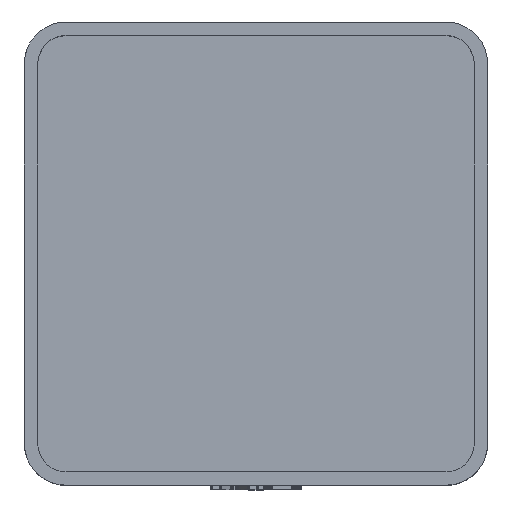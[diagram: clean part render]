
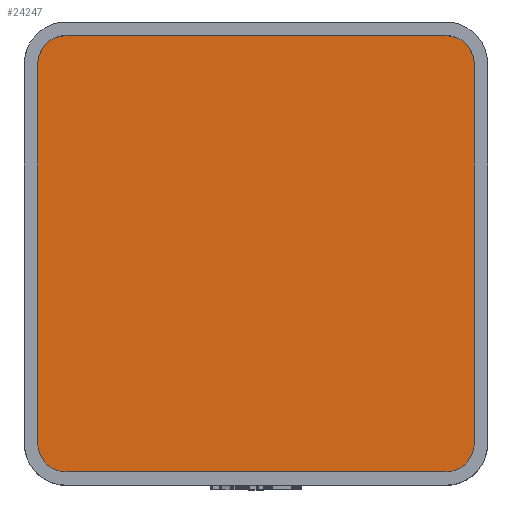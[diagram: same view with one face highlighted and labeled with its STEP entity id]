
A CAD part, top view. The second image highlights one B-rep face of the part: STEP entity #24247.
In plain terms, the highlighted planar face has unit normal (0, 0, 1).
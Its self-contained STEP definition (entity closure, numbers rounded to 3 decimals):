
#1442 = PLANE('',#1443);
#1443 = AXIS2_PLACEMENT_3D('',#1444,#1445,#1446);
#1444 = CARTESIAN_POINT('',(-19.55,-17.,4.75));
#1445 = DIRECTION('',(-1.,0.,0.));
#1446 = DIRECTION('',(0.,1.,0.));
#1474 = CYLINDRICAL_SURFACE('',#1475,2.55);
#1475 = AXIS2_PLACEMENT_3D('',#1476,#1477,#1478);
#1476 = CARTESIAN_POINT('',(-17.,17.,4.75));
#1477 = DIRECTION('',(-0.,-0.,-1.));
#1478 = DIRECTION('',(1.,0.,0.));
#1501 = PLANE('',#1502);
#1502 = AXIS2_PLACEMENT_3D('',#1503,#1504,#1505);
#1503 = CARTESIAN_POINT('',(-17.,19.55,4.75));
#1504 = DIRECTION('',(0.,1.,0.));
#1505 = DIRECTION('',(1.,0.,0.));
#1533 = CYLINDRICAL_SURFACE('',#1534,2.55);
#1534 = AXIS2_PLACEMENT_3D('',#1535,#1536,#1537);
#1535 = CARTESIAN_POINT('',(17.,17.,4.75));
#1536 = DIRECTION('',(-0.,-0.,-1.));
#1537 = DIRECTION('',(1.,0.,0.));
#1560 = PLANE('',#1561);
#1561 = AXIS2_PLACEMENT_3D('',#1562,#1563,#1564);
#1562 = CARTESIAN_POINT('',(19.55,-17.,4.75));
#1563 = DIRECTION('',(-1.,0.,0.));
#1564 = DIRECTION('',(0.,1.,0.));
#1592 = CYLINDRICAL_SURFACE('',#1593,2.55);
#1593 = AXIS2_PLACEMENT_3D('',#1594,#1595,#1596);
#1594 = CARTESIAN_POINT('',(17.,-17.,4.75));
#1595 = DIRECTION('',(-0.,-0.,-1.));
#1596 = DIRECTION('',(1.,0.,0.));
#1619 = PLANE('',#1620);
#1620 = AXIS2_PLACEMENT_3D('',#1621,#1622,#1623);
#1621 = CARTESIAN_POINT('',(-17.,-19.55,4.75));
#1622 = DIRECTION('',(0.,1.,0.));
#1623 = DIRECTION('',(1.,0.,0.));
#1649 = CYLINDRICAL_SURFACE('',#1650,2.55);
#1650 = AXIS2_PLACEMENT_3D('',#1651,#1652,#1653);
#1651 = CARTESIAN_POINT('',(-17.,-17.,4.75));
#1652 = DIRECTION('',(-0.,-0.,-1.));
#1653 = DIRECTION('',(1.,0.,0.));
#9429 = EDGE_CURVE('',#9430,#9432,#9434,.T.);
#9430 = VERTEX_POINT('',#9431);
#9431 = CARTESIAN_POINT('',(-19.55,-17.,4.75));
#9432 = VERTEX_POINT('',#9433);
#9433 = CARTESIAN_POINT('',(-19.55,17.,4.75));
#9434 = SURFACE_CURVE('',#9435,(#9439,#9446),.PCURVE_S1.);
#9435 = LINE('',#9436,#9437);
#9436 = CARTESIAN_POINT('',(-19.55,0.,4.75));
#9437 = VECTOR('',#9438,1.);
#9438 = DIRECTION('',(0.,1.,0.));
#9439 = PCURVE('',#1442,#9440);
#9440 = DEFINITIONAL_REPRESENTATION('',(#9441),#9445);
#9441 = LINE('',#9442,#9443);
#9442 = CARTESIAN_POINT('',(17.,0.));
#9443 = VECTOR('',#9444,1.);
#9444 = DIRECTION('',(1.,0.));
#9445 = ( GEOMETRIC_REPRESENTATION_CONTEXT(2) 
PARAMETRIC_REPRESENTATION_CONTEXT() REPRESENTATION_CONTEXT('2D SPACE',''
  ) );
#9446 = PCURVE('',#9447,#9452);
#9447 = PLANE('',#9448);
#9448 = AXIS2_PLACEMENT_3D('',#9449,#9450,#9451);
#9449 = CARTESIAN_POINT('',(0.,0.,4.75)
  );
#9450 = DIRECTION('',(0.,0.,1.));
#9451 = DIRECTION('',(1.,0.,-0.));
#9452 = DEFINITIONAL_REPRESENTATION('',(#9453),#9457);
#9453 = LINE('',#9454,#9455);
#9454 = CARTESIAN_POINT('',(-19.55,0.));
#9455 = VECTOR('',#9456,1.);
#9456 = DIRECTION('',(0.,1.));
#9457 = ( GEOMETRIC_REPRESENTATION_CONTEXT(2) 
PARAMETRIC_REPRESENTATION_CONTEXT() REPRESENTATION_CONTEXT('2D SPACE',''
  ) );
#9505 = EDGE_CURVE('',#9430,#9506,#9508,.T.);
#9506 = VERTEX_POINT('',#9507);
#9507 = CARTESIAN_POINT('',(-17.,-19.55,4.75));
#9508 = SURFACE_CURVE('',#9509,(#9514,#9521),.PCURVE_S1.);
#9509 = CIRCLE('',#9510,2.55);
#9510 = AXIS2_PLACEMENT_3D('',#9511,#9512,#9513);
#9511 = CARTESIAN_POINT('',(-17.,-17.,4.75));
#9512 = DIRECTION('',(0.,0.,1.));
#9513 = DIRECTION('',(1.,0.,0.));
#9514 = PCURVE('',#1649,#9515);
#9515 = DEFINITIONAL_REPRESENTATION('',(#9516),#9520);
#9516 = LINE('',#9517,#9518);
#9517 = CARTESIAN_POINT('',(-0.,0.));
#9518 = VECTOR('',#9519,1.);
#9519 = DIRECTION('',(-1.,0.));
#9520 = ( GEOMETRIC_REPRESENTATION_CONTEXT(2) 
PARAMETRIC_REPRESENTATION_CONTEXT() REPRESENTATION_CONTEXT('2D SPACE',''
  ) );
#9521 = PCURVE('',#9447,#9522);
#9522 = DEFINITIONAL_REPRESENTATION('',(#9523),#9527);
#9523 = CIRCLE('',#9524,2.55);
#9524 = AXIS2_PLACEMENT_2D('',#9525,#9526);
#9525 = CARTESIAN_POINT('',(-17.,-17.));
#9526 = DIRECTION('',(1.,0.));
#9527 = ( GEOMETRIC_REPRESENTATION_CONTEXT(2) 
PARAMETRIC_REPRESENTATION_CONTEXT() REPRESENTATION_CONTEXT('2D SPACE',''
  ) );
#9555 = EDGE_CURVE('',#9506,#9556,#9558,.T.);
#9556 = VERTEX_POINT('',#9557);
#9557 = CARTESIAN_POINT('',(17.,-19.55,4.75));
#9558 = SURFACE_CURVE('',#9559,(#9563,#9570),.PCURVE_S1.);
#9559 = LINE('',#9560,#9561);
#9560 = CARTESIAN_POINT('',(0.,-19.55,4.75));
#9561 = VECTOR('',#9562,1.);
#9562 = DIRECTION('',(1.,0.,0.));
#9563 = PCURVE('',#1619,#9564);
#9564 = DEFINITIONAL_REPRESENTATION('',(#9565),#9569);
#9565 = LINE('',#9566,#9567);
#9566 = CARTESIAN_POINT('',(17.,0.));
#9567 = VECTOR('',#9568,1.);
#9568 = DIRECTION('',(1.,0.));
#9569 = ( GEOMETRIC_REPRESENTATION_CONTEXT(2) 
PARAMETRIC_REPRESENTATION_CONTEXT() REPRESENTATION_CONTEXT('2D SPACE',''
  ) );
#9570 = PCURVE('',#9447,#9571);
#9571 = DEFINITIONAL_REPRESENTATION('',(#9572),#9576);
#9572 = LINE('',#9573,#9574);
#9573 = CARTESIAN_POINT('',(0.,-19.55));
#9574 = VECTOR('',#9575,1.);
#9575 = DIRECTION('',(1.,0.));
#9576 = ( GEOMETRIC_REPRESENTATION_CONTEXT(2) 
PARAMETRIC_REPRESENTATION_CONTEXT() REPRESENTATION_CONTEXT('2D SPACE',''
  ) );
#9604 = EDGE_CURVE('',#9556,#9605,#9607,.T.);
#9605 = VERTEX_POINT('',#9606);
#9606 = CARTESIAN_POINT('',(19.55,-17.,4.75));
#9607 = SURFACE_CURVE('',#9608,(#9613,#9620),.PCURVE_S1.);
#9608 = CIRCLE('',#9609,2.55);
#9609 = AXIS2_PLACEMENT_3D('',#9610,#9611,#9612);
#9610 = CARTESIAN_POINT('',(17.,-17.,4.75));
#9611 = DIRECTION('',(0.,0.,1.));
#9612 = DIRECTION('',(1.,0.,0.));
#9613 = PCURVE('',#1592,#9614);
#9614 = DEFINITIONAL_REPRESENTATION('',(#9615),#9619);
#9615 = LINE('',#9616,#9617);
#9616 = CARTESIAN_POINT('',(-0.,0.));
#9617 = VECTOR('',#9618,1.);
#9618 = DIRECTION('',(-1.,0.));
#9619 = ( GEOMETRIC_REPRESENTATION_CONTEXT(2) 
PARAMETRIC_REPRESENTATION_CONTEXT() REPRESENTATION_CONTEXT('2D SPACE',''
  ) );
#9620 = PCURVE('',#9447,#9621);
#9621 = DEFINITIONAL_REPRESENTATION('',(#9622),#9626);
#9622 = CIRCLE('',#9623,2.55);
#9623 = AXIS2_PLACEMENT_2D('',#9624,#9625);
#9624 = CARTESIAN_POINT('',(17.,-17.));
#9625 = DIRECTION('',(1.,0.));
#9626 = ( GEOMETRIC_REPRESENTATION_CONTEXT(2) 
PARAMETRIC_REPRESENTATION_CONTEXT() REPRESENTATION_CONTEXT('2D SPACE',''
  ) );
#9654 = EDGE_CURVE('',#9605,#9655,#9657,.T.);
#9655 = VERTEX_POINT('',#9656);
#9656 = CARTESIAN_POINT('',(19.55,17.,4.75));
#9657 = SURFACE_CURVE('',#9658,(#9662,#9669),.PCURVE_S1.);
#9658 = LINE('',#9659,#9660);
#9659 = CARTESIAN_POINT('',(19.55,0.,4.75));
#9660 = VECTOR('',#9661,1.);
#9661 = DIRECTION('',(0.,1.,0.));
#9662 = PCURVE('',#1560,#9663);
#9663 = DEFINITIONAL_REPRESENTATION('',(#9664),#9668);
#9664 = LINE('',#9665,#9666);
#9665 = CARTESIAN_POINT('',(17.,0.));
#9666 = VECTOR('',#9667,1.);
#9667 = DIRECTION('',(1.,0.));
#9668 = ( GEOMETRIC_REPRESENTATION_CONTEXT(2) 
PARAMETRIC_REPRESENTATION_CONTEXT() REPRESENTATION_CONTEXT('2D SPACE',''
  ) );
#9669 = PCURVE('',#9447,#9670);
#9670 = DEFINITIONAL_REPRESENTATION('',(#9671),#9675);
#9671 = LINE('',#9672,#9673);
#9672 = CARTESIAN_POINT('',(19.55,0.));
#9673 = VECTOR('',#9674,1.);
#9674 = DIRECTION('',(0.,1.));
#9675 = ( GEOMETRIC_REPRESENTATION_CONTEXT(2) 
PARAMETRIC_REPRESENTATION_CONTEXT() REPRESENTATION_CONTEXT('2D SPACE',''
  ) );
#9703 = EDGE_CURVE('',#9655,#9704,#9706,.T.);
#9704 = VERTEX_POINT('',#9705);
#9705 = CARTESIAN_POINT('',(17.,19.55,4.75));
#9706 = SURFACE_CURVE('',#9707,(#9712,#9719),.PCURVE_S1.);
#9707 = CIRCLE('',#9708,2.55);
#9708 = AXIS2_PLACEMENT_3D('',#9709,#9710,#9711);
#9709 = CARTESIAN_POINT('',(17.,17.,4.75));
#9710 = DIRECTION('',(0.,0.,1.));
#9711 = DIRECTION('',(1.,0.,0.));
#9712 = PCURVE('',#1533,#9713);
#9713 = DEFINITIONAL_REPRESENTATION('',(#9714),#9718);
#9714 = LINE('',#9715,#9716);
#9715 = CARTESIAN_POINT('',(-0.,0.));
#9716 = VECTOR('',#9717,1.);
#9717 = DIRECTION('',(-1.,0.));
#9718 = ( GEOMETRIC_REPRESENTATION_CONTEXT(2) 
PARAMETRIC_REPRESENTATION_CONTEXT() REPRESENTATION_CONTEXT('2D SPACE',''
  ) );
#9719 = PCURVE('',#9447,#9720);
#9720 = DEFINITIONAL_REPRESENTATION('',(#9721),#9725);
#9721 = CIRCLE('',#9722,2.55);
#9722 = AXIS2_PLACEMENT_2D('',#9723,#9724);
#9723 = CARTESIAN_POINT('',(17.,17.));
#9724 = DIRECTION('',(1.,0.));
#9725 = ( GEOMETRIC_REPRESENTATION_CONTEXT(2) 
PARAMETRIC_REPRESENTATION_CONTEXT() REPRESENTATION_CONTEXT('2D SPACE',''
  ) );
#9753 = EDGE_CURVE('',#9754,#9704,#9756,.T.);
#9754 = VERTEX_POINT('',#9755);
#9755 = CARTESIAN_POINT('',(-17.,19.55,4.75));
#9756 = SURFACE_CURVE('',#9757,(#9761,#9768),.PCURVE_S1.);
#9757 = LINE('',#9758,#9759);
#9758 = CARTESIAN_POINT('',(0.,19.55,4.75));
#9759 = VECTOR('',#9760,1.);
#9760 = DIRECTION('',(1.,0.,0.));
#9761 = PCURVE('',#1501,#9762);
#9762 = DEFINITIONAL_REPRESENTATION('',(#9763),#9767);
#9763 = LINE('',#9764,#9765);
#9764 = CARTESIAN_POINT('',(17.,0.));
#9765 = VECTOR('',#9766,1.);
#9766 = DIRECTION('',(1.,0.));
#9767 = ( GEOMETRIC_REPRESENTATION_CONTEXT(2) 
PARAMETRIC_REPRESENTATION_CONTEXT() REPRESENTATION_CONTEXT('2D SPACE',''
  ) );
#9768 = PCURVE('',#9447,#9769);
#9769 = DEFINITIONAL_REPRESENTATION('',(#9770),#9774);
#9770 = LINE('',#9771,#9772);
#9771 = CARTESIAN_POINT('',(0.,19.55));
#9772 = VECTOR('',#9773,1.);
#9773 = DIRECTION('',(1.,0.));
#9774 = ( GEOMETRIC_REPRESENTATION_CONTEXT(2) 
PARAMETRIC_REPRESENTATION_CONTEXT() REPRESENTATION_CONTEXT('2D SPACE',''
  ) );
#9802 = EDGE_CURVE('',#9754,#9432,#9803,.T.);
#9803 = SURFACE_CURVE('',#9804,(#9809,#9816),.PCURVE_S1.);
#9804 = CIRCLE('',#9805,2.55);
#9805 = AXIS2_PLACEMENT_3D('',#9806,#9807,#9808);
#9806 = CARTESIAN_POINT('',(-17.,17.,4.75));
#9807 = DIRECTION('',(0.,0.,1.));
#9808 = DIRECTION('',(1.,0.,0.));
#9809 = PCURVE('',#1474,#9810);
#9810 = DEFINITIONAL_REPRESENTATION('',(#9811),#9815);
#9811 = LINE('',#9812,#9813);
#9812 = CARTESIAN_POINT('',(-0.,0.));
#9813 = VECTOR('',#9814,1.);
#9814 = DIRECTION('',(-1.,0.));
#9815 = ( GEOMETRIC_REPRESENTATION_CONTEXT(2) 
PARAMETRIC_REPRESENTATION_CONTEXT() REPRESENTATION_CONTEXT('2D SPACE',''
  ) );
#9816 = PCURVE('',#9447,#9817);
#9817 = DEFINITIONAL_REPRESENTATION('',(#9818),#9822);
#9818 = CIRCLE('',#9819,2.55);
#9819 = AXIS2_PLACEMENT_2D('',#9820,#9821);
#9820 = CARTESIAN_POINT('',(-17.,17.));
#9821 = DIRECTION('',(1.,0.));
#9822 = ( GEOMETRIC_REPRESENTATION_CONTEXT(2) 
PARAMETRIC_REPRESENTATION_CONTEXT() REPRESENTATION_CONTEXT('2D SPACE',''
  ) );
#24247 = ADVANCED_FACE('',(#24248),#9447,.T.);
#24248 = FACE_BOUND('',#24249,.T.);
#24249 = EDGE_LOOP('',(#24250,#24251,#24252,#24253,#24254,#24255,#24256,
    #24257));
#24250 = ORIENTED_EDGE('',*,*,#9429,.F.);
#24251 = ORIENTED_EDGE('',*,*,#9505,.T.);
#24252 = ORIENTED_EDGE('',*,*,#9555,.T.);
#24253 = ORIENTED_EDGE('',*,*,#9604,.T.);
#24254 = ORIENTED_EDGE('',*,*,#9654,.T.);
#24255 = ORIENTED_EDGE('',*,*,#9703,.T.);
#24256 = ORIENTED_EDGE('',*,*,#9753,.F.);
#24257 = ORIENTED_EDGE('',*,*,#9802,.T.);
